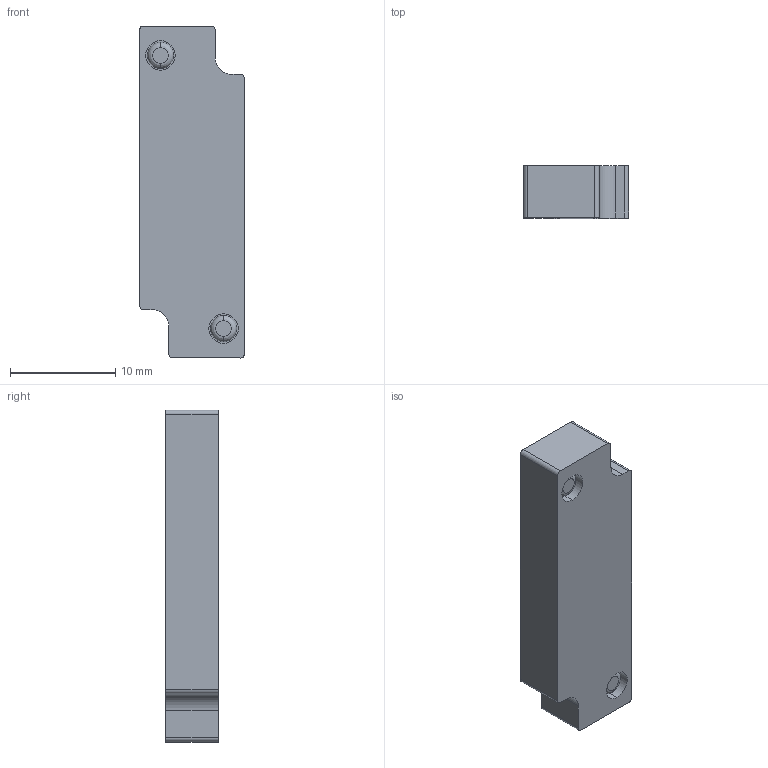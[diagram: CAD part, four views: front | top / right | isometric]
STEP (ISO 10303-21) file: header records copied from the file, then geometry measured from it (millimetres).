
FILE_DESCRIPTION( (''), '2;1');
FILE_NAME ('CVICAD02.17696.F10_VP_6724.stp','2020-09-01T14:14:58',(''),(''),'spGate 12.6.6','','');
FILE_SCHEMA (('AUTOMOTIVE_DESIGN'));
Length unit declared in the file: millimetre
Bounding box: 10 x 5 x 31.6 mm (x, y, z)
Volume: 1447.5 mm3; surface area: 1008.1 mm2
Topology: 1 solids, 1 shells, 30 faces, 72 edges, 48 vertices
Faces by surface type: plane 14, cylinder 12, bspline 4
Entity records: 1571 total; most frequent: CARTESIAN_POINT 265, DIRECTION 145, ORIENTED_EDGE 144, COLOUR_RGB 103, PRESENTATION_STYLE_ASSIGNMENT 103, STYLED_ITEM 103, EDGE_CURVE 72, DRAUGHTING_PRE_DEFINED_CURVE_FONT 72
